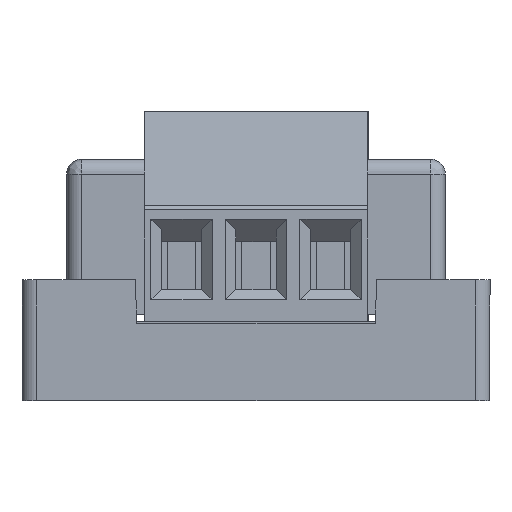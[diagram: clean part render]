
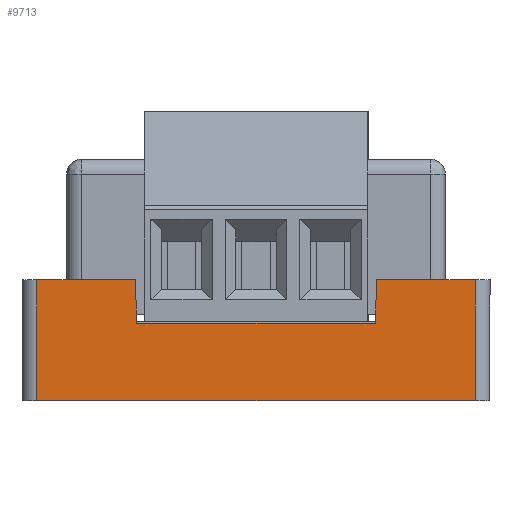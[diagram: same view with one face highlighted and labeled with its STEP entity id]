
A CAD part, left-side view. The second image highlights one B-rep face of the part: STEP entity #9713.
In plain terms, the highlighted planar face has unit normal (-1, 0, 0).
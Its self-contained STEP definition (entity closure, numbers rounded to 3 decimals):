
#760 = VERTEX_POINT ( 'NONE', #7551 ) ;
#1766 = LINE ( 'NONE', #13307, #16002 ) ;
#1812 = ORIENTED_EDGE ( 'NONE', *, *, #6700, .F. ) ;
#1918 = CARTESIAN_POINT ( 'NONE',  ( -38.1, -50.427, 5.2 ) ) ;
#2059 = EDGE_CURVE ( 'NONE', #6649, #13205, #6858, .T. ) ;
#2329 = CARTESIAN_POINT ( 'NONE',  ( -38.1, -57.127, 8.1 ) ) ;
#2336 = VERTEX_POINT ( 'NONE', #3191 ) ;
#2755 = VECTOR ( 'NONE', #6357, 1000. ) ;
#2936 = CARTESIAN_POINT ( 'NONE',  ( -38.1, -57.127, 8.1 ) ) ;
#3191 = CARTESIAN_POINT ( 'NONE',  ( -38.1, -57.127, 0. ) ) ;
#3520 = ORIENTED_EDGE ( 'NONE', *, *, #7941, .T. ) ;
#3957 = DIRECTION ( 'NONE',  ( 0., 0., 1. ) ) ;
#4048 = ORIENTED_EDGE ( 'NONE', *, *, #15356, .T. ) ;
#5150 = AXIS2_PLACEMENT_3D ( 'NONE', #2936, #15526, #13793 ) ;
#5418 = CARTESIAN_POINT ( 'NONE',  ( -38.1, -27.727, 8.1 ) ) ;
#6017 = LINE ( 'NONE', #5418, #19219 ) ;
#6357 = DIRECTION ( 'NONE',  ( 0., 0.034, 0.999 ) ) ;
#6649 = VERTEX_POINT ( 'NONE', #15923 ) ;
#6700 = EDGE_CURVE ( 'NONE', #2336, #11269, #16909, .T. ) ;
#6858 = LINE ( 'NONE', #15264, #11028 ) ;
#6877 = LINE ( 'NONE', #8310, #10564 ) ;
#7002 = DIRECTION ( 'NONE',  ( 0., 0., -1. ) ) ;
#7551 = CARTESIAN_POINT ( 'NONE',  ( -38.1, -27.727, 8.1 ) ) ;
#7941 = EDGE_CURVE ( 'NONE', #760, #11269, #6017, .T. ) ;
#8310 = CARTESIAN_POINT ( 'NONE',  ( -38.1, -57.127, 8.1 ) ) ;
#8797 = CARTESIAN_POINT ( 'NONE',  ( -38.1, -57.127, 8.1 ) ) ;
#8884 = VECTOR ( 'NONE', #19369, 1000. ) ;
#9139 = CARTESIAN_POINT ( 'NONE',  ( -38.1, -27.727, 0. ) ) ;
#9236 = EDGE_CURVE ( 'NONE', #13490, #760, #6877, .T. ) ;
#9387 = VECTOR ( 'NONE', #10974, 1000. ) ;
#9477 = ORIENTED_EDGE ( 'NONE', *, *, #19179, .T. ) ;
#9642 = DIRECTION ( 'NONE',  ( 0., 1., 0. ) ) ;
#9713 = ADVANCED_FACE ( 'NONE', ( #19117 ), #12357, .T. ) ;
#10564 = VECTOR ( 'NONE', #9642, 1000. ) ;
#10849 = LINE ( 'NONE', #2329, #8884 ) ;
#10974 = DIRECTION ( 'NONE',  ( 0., 1., 0. ) ) ;
#11028 = VECTOR ( 'NONE', #18117, 1000. ) ;
#11101 = LINE ( 'NONE', #15793, #9387 ) ;
#11222 = CARTESIAN_POINT ( 'NONE',  ( -38.1, -34.427, 5.2 ) ) ;
#11269 = VERTEX_POINT ( 'NONE', #9139 ) ;
#11630 = DIRECTION ( 'NONE',  ( 0., 1., 0. ) ) ;
#12116 = ORIENTED_EDGE ( 'NONE', *, *, #18578, .T. ) ;
#12357 = PLANE ( 'NONE',  #5150 ) ;
#12720 = VECTOR ( 'NONE', #11630, 1000. ) ;
#13205 = VERTEX_POINT ( 'NONE', #1918 ) ;
#13307 = CARTESIAN_POINT ( 'NONE',  ( -38.1, -57.127, 8.1 ) ) ;
#13490 = VERTEX_POINT ( 'NONE', #14044 ) ;
#13793 = DIRECTION ( 'NONE',  ( 0., 0., 1. ) ) ;
#14044 = CARTESIAN_POINT ( 'NONE',  ( -38.1, -34.327, 8.1 ) ) ;
#15264 = CARTESIAN_POINT ( 'NONE',  ( -38.1, -50.527, 8.1 ) ) ;
#15356 = EDGE_CURVE ( 'NONE', #2336, #17886, #1766, .T. ) ;
#15526 = DIRECTION ( 'NONE',  ( -1., 0., 0. ) ) ;
#15793 = CARTESIAN_POINT ( 'NONE',  ( -38.1, -57.127, 5.2 ) ) ;
#15923 = CARTESIAN_POINT ( 'NONE',  ( -38.1, -50.527, 8.1 ) ) ;
#16002 = VECTOR ( 'NONE', #3957, 1000. ) ;
#16030 = ORIENTED_EDGE ( 'NONE', *, *, #9236, .T. ) ;
#16313 = VERTEX_POINT ( 'NONE', #11222 ) ;
#16396 = CARTESIAN_POINT ( 'NONE',  ( -38.1, -27.727, 0. ) ) ;
#16541 = EDGE_LOOP ( 'NONE', ( #9477, #16030, #3520, #1812, #4048, #17687, #16773, #12116 ) ) ;
#16773 = ORIENTED_EDGE ( 'NONE', *, *, #2059, .T. ) ;
#16909 = LINE ( 'NONE', #16396, #12720 ) ;
#17687 = ORIENTED_EDGE ( 'NONE', *, *, #18797, .T. ) ;
#17886 = VERTEX_POINT ( 'NONE', #8797 ) ;
#18117 = DIRECTION ( 'NONE',  ( 0., 0.034, -0.999 ) ) ;
#18578 = EDGE_CURVE ( 'NONE', #13205, #16313, #11101, .T. ) ;
#18622 = CARTESIAN_POINT ( 'NONE',  ( -38.1, -34.427, 5.2 ) ) ;
#18797 = EDGE_CURVE ( 'NONE', #17886, #6649, #10849, .T. ) ;
#19117 = FACE_OUTER_BOUND ( 'NONE', #16541, .T. ) ;
#19131 = LINE ( 'NONE', #18622, #2755 ) ;
#19179 = EDGE_CURVE ( 'NONE', #16313, #13490, #19131, .T. ) ;
#19219 = VECTOR ( 'NONE', #7002, 1000. ) ;
#19369 = DIRECTION ( 'NONE',  ( 0., 1., 0. ) ) ;
